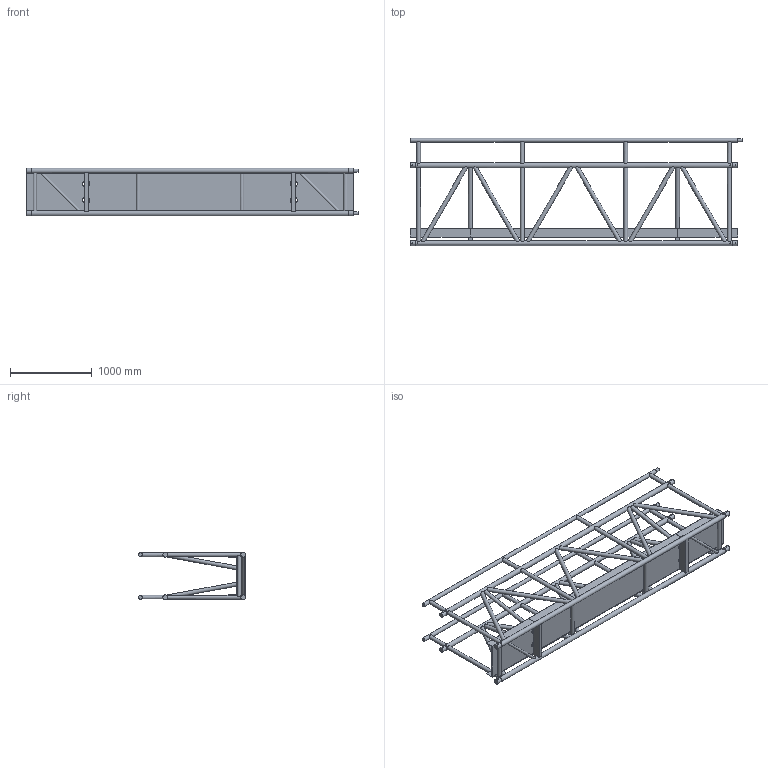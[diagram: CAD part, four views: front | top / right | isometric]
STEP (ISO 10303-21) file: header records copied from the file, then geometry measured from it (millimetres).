
FILE_DESCRIPTION(/* description */ (''),/* implementation_level */ '2;1');
FILE_NAME(/* name */ 'M:\Symbolen_NIEUW\STP\100-er truss\B100CW\B100CW-L400_111110005.stp',/* time_stamp */ '2017-12-06T14:24:49+01:00',/* author */ ('Kees'),/* organization */ (''),/* preprocessor_version */ 'ST-DEVELOPER v16.13',/* originating_system */ 'Autodesk Inventor 2018',/* authorisation */ '');
FILE_SCHEMA (('AUTOMOTIVE_DESIGN { 1 0 10303 214 3 1 1 }'));
Length unit declared in the file: millimetre
Products named in the file (1): 260002807
Bounding box: 4050 x 1309.15 x 580 mm (x, y, z)
Volume: 128108030.8 mm3; surface area: 13899862.2 mm2
Topology: 1 solids, 1 shells, 382 faces, 1151 edges, 738 vertices
Faces by surface type: plane 240, cylinder 102, cone 40
Full cylindrical faces by diameter (mm): 10 x8, 30 x2, 40 x2, 48.3 x38, 58.8 x8, 60 x4
Entity records: 16117 total; most frequent: CARTESIAN_POINT 6301, ORIENTED_EDGE 1884, DIRECTION 1856, EDGE_CURVE 942, AXIS2_PLACEMENT_3D 707, VERTEX_POINT 656, EDGE_LOOP 588, LINE 442
